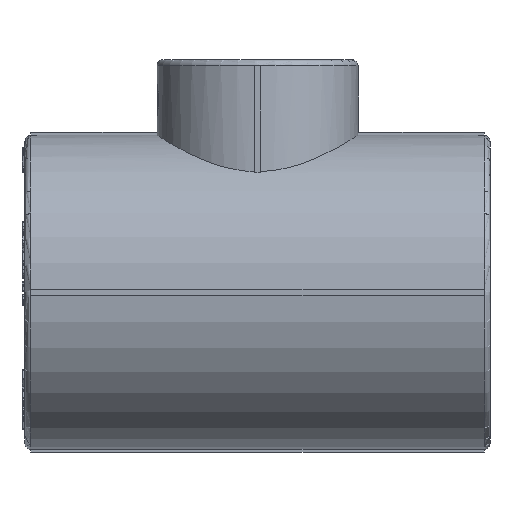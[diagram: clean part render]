
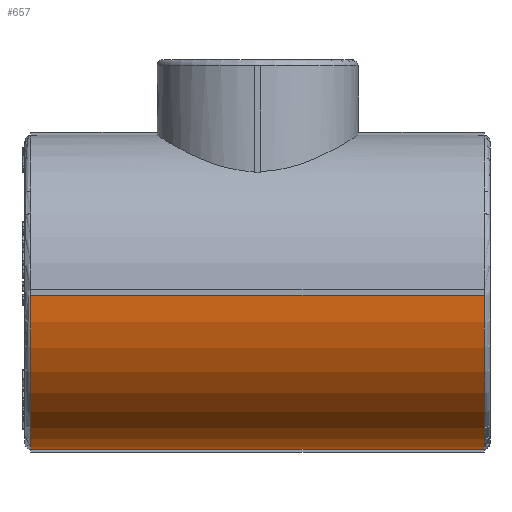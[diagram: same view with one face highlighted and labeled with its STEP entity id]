
A CAD part, left-side view. The second image highlights one B-rep face of the part: STEP entity #657.
In plain terms, the highlighted cylindrical face has radius 27 mm (diameter 54 mm), a partial arc.
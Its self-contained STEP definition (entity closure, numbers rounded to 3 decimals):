
#657=ADVANCED_FACE('',(#5108),#5110,.T.);
#5108=FACE_BOUND('',#5109,.T.);
#5109=EDGE_LOOP('',(#12984,#12985,#12986,#12987));
#5110=CYLINDRICAL_SURFACE('',#5111,27.);
#5111=AXIS2_PLACEMENT_3D('',#5112,#5113,#5114);
#5112=CARTESIAN_POINT('',(0.,-40.,0.));
#5113=DIRECTION('',(0.,1.,0.));
#5114=DIRECTION('',(-1.,0.,0.));
#12984=ORIENTED_EDGE('',*,*,#18412,.F.);
#12985=ORIENTED_EDGE('',*,*,#18413,.T.);
#12986=ORIENTED_EDGE('',*,*,#18414,.F.);
#12987=ORIENTED_EDGE('',*,*,#18374,.F.);
#18374=EDGE_CURVE('',#22622,#22624,#22625,.T.);
#18412=EDGE_CURVE('',#22692,#22622,#22693,.T.);
#18413=EDGE_CURVE('',#22692,#22694,#22695,.T.);
#18414=EDGE_CURVE('',#22624,#22694,#22696,.F.);
#22622=VERTEX_POINT('',#31203);
#22624=VERTEX_POINT('',#31208);
#22625=CIRCLE('',#31209,27.);
#22692=VERTEX_POINT('',#31601);
#22693=LINE('',#31602,#31603);
#22694=VERTEX_POINT('',#31605);
#22695=CIRCLE('',#31606,27.);
#22696=LINE('',#31610,#31611);
#31203=CARTESIAN_POINT('',(-0.5,39.,-26.995));
#31208=CARTESIAN_POINT('',(-26.995,39.,-0.5));
#31209=AXIS2_PLACEMENT_3D('',#31210,#31211,#31212);
#31210=CARTESIAN_POINT('',(0.,39.,0.));
#31211=DIRECTION('',(0.,1.,0.));
#31212=DIRECTION('',(-0.019,0.,-1.));
#31601=CARTESIAN_POINT('',(-0.5,-39.,-26.995));
#31602=CARTESIAN_POINT('',(-0.5,-39.,-26.995));
#31603=VECTOR('',#31604,1.);
#31604=DIRECTION('',(0.,1.,0.));
#31605=CARTESIAN_POINT('',(-26.995,-39.,-0.5));
#31606=AXIS2_PLACEMENT_3D('',#31607,#31608,#31609);
#31607=CARTESIAN_POINT('',(0.,-39.,0.));
#31608=DIRECTION('',(0.,1.,0.));
#31609=DIRECTION('',(-0.019,0.,-1.));
#31610=CARTESIAN_POINT('',(-26.995,-39.,-0.5));
#31611=VECTOR('',#31612,1.);
#31612=DIRECTION('',(0.,1.,0.));
